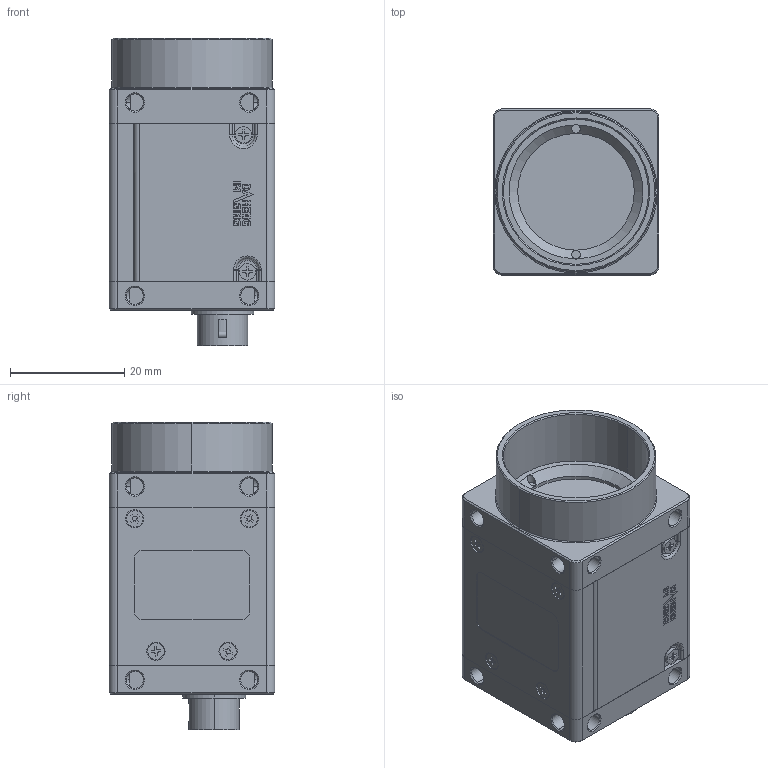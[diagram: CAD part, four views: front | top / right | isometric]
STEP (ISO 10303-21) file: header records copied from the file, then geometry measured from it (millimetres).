
FILE_DESCRIPTION (( 'STEP AP203' ), '1' );
FILE_NAME ('me2s_u3_6phc_user_a1.0.1.STEP', '2023-05-22T06:24:48', ( '' ), ( '' ), 'SwSTEP 2.0', 'SolidWorks 2016', '' );
FILE_SCHEMA (( 'CONFIG_CONTROL_DESIGN' ));
Length unit declared in the file: millimetre
Products named in the file (1): me2s_u3_6phc_user_a1.0.1
Bounding box: 29 x 29 x 53.7 mm (x, y, z)
Volume: 39877.3 mm3; surface area: 19733.1 mm2
Topology: 16 solids, 19 shells, 1931 faces, 5304 edges, 3438 vertices
Faces by surface type: plane 1058, cylinder 696, cone 104, bspline 42, torus 31
Entity records: 66857 total; most frequent: CARTESIAN_POINT 18364, ORIENTED_EDGE 10608, DIRECTION 9626, EDGE_CURVE 5304, VERTEX_POINT 3438, VECTOR 3342, LINE 3342, AXIS2_PLACEMENT_3D 3142
